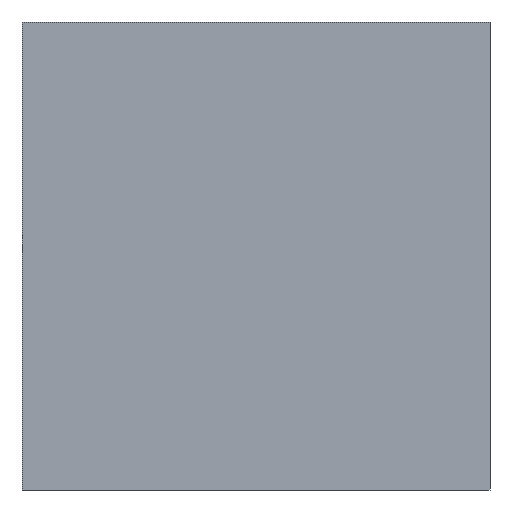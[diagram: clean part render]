
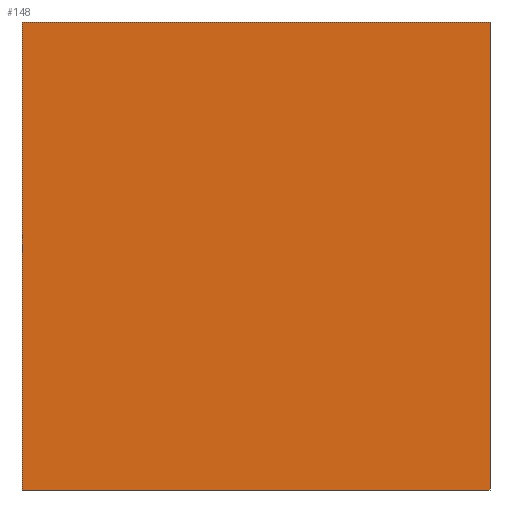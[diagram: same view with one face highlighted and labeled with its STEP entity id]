
A CAD part, left-side view. The second image highlights one B-rep face of the part: STEP entity #148.
In plain terms, the highlighted planar face has unit normal (-1, 0, 0).
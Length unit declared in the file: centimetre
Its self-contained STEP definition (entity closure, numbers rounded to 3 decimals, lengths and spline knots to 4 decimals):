
#2 = PLANE ( 'NONE',  #47 ) ;
#9 = VECTOR ( 'NONE', #40, 100. ) ;
#29 = LINE ( 'NONE', #177, #500 ) ;
#40 = DIRECTION ( 'NONE',  ( 0., -1., 0. ) ) ;
#43 = EDGE_CURVE ( 'NONE', #249, #327, #274, .T. ) ;
#47 = AXIS2_PLACEMENT_3D ( 'NONE', #429, #241, #245 ) ;
#48 = VERTEX_POINT ( 'NONE', #149 ) ;
#67 = ORIENTED_EDGE ( 'NONE', *, *, #91, .F. ) ;
#91 = EDGE_CURVE ( 'NONE', #327, #396, #418, .T. ) ;
#110 = ORIENTED_EDGE ( 'NONE', *, *, #142, .T. ) ;
#115 = EDGE_CURVE ( 'NONE', #249, #48, #29, .T. ) ;
#135 = CARTESIAN_POINT ( 'NONE',  ( 0., 0., 0. ) ) ;
#142 = EDGE_CURVE ( 'NONE', #48, #396, #389, .T. ) ;
#148 = ADVANCED_FACE ( 'NONE', ( #346 ), #2, .F. ) ;
#149 = CARTESIAN_POINT ( 'NONE',  ( 0., 1000., 0. ) ) ;
#152 = VECTOR ( 'NONE', #230, 100. ) ;
#165 = VECTOR ( 'NONE', #383, 100. ) ;
#174 = CARTESIAN_POINT ( 'NONE',  ( 0., 0., 1000. ) ) ;
#177 = CARTESIAN_POINT ( 'NONE',  ( 0., 1000., 1000. ) ) ;
#185 = CARTESIAN_POINT ( 'NONE',  ( 0., 1000., 0. ) ) ;
#192 = CARTESIAN_POINT ( 'NONE',  ( 0., 1000., 1000. ) ) ;
#210 = CARTESIAN_POINT ( 'NONE',  ( 0., 0., 1000. ) ) ;
#230 = DIRECTION ( 'NONE',  ( 0., -1., 0. ) ) ;
#241 = DIRECTION ( 'NONE',  ( 1., 0., 0. ) ) ;
#245 = DIRECTION ( 'NONE',  ( 0., 0., -1. ) ) ;
#249 = VERTEX_POINT ( 'NONE', #400 ) ;
#274 = LINE ( 'NONE', #192, #152 ) ;
#281 = EDGE_LOOP ( 'NONE', ( #110, #67, #341, #359 ) ) ;
#327 = VERTEX_POINT ( 'NONE', #210 ) ;
#341 = ORIENTED_EDGE ( 'NONE', *, *, #43, .F. ) ;
#346 = FACE_OUTER_BOUND ( 'NONE', #281, .T. ) ;
#359 = ORIENTED_EDGE ( 'NONE', *, *, #115, .T. ) ;
#383 = DIRECTION ( 'NONE',  ( 0., 0., -1. ) ) ;
#389 = LINE ( 'NONE', #185, #9 ) ;
#396 = VERTEX_POINT ( 'NONE', #135 ) ;
#400 = CARTESIAN_POINT ( 'NONE',  ( 0., 1000., 1000. ) ) ;
#418 = LINE ( 'NONE', #174, #165 ) ;
#429 = CARTESIAN_POINT ( 'NONE',  ( 0., 1000., 1000. ) ) ;
#495 = DIRECTION ( 'NONE',  ( 0., 0., -1. ) ) ;
#500 = VECTOR ( 'NONE', #495, 100. ) ;
